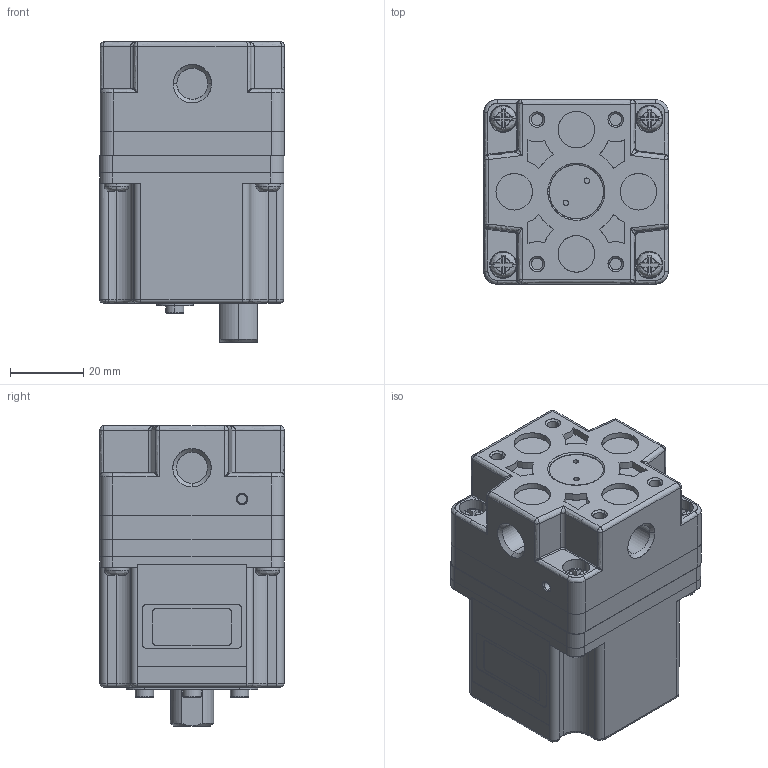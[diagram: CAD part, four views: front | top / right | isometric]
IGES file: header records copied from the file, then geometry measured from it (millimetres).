
Start section: SolidWorks IGES file using analytic representation for surfaces
Global section: file name: C:\Salvar\Planos Compartidos\Regulador de Pres. Prop\NITV1050-211BS.IGS; native system: SolidWorks 2021; preprocessor: SolidWorks 2021; author: osval; date: 210212.102738; units: millimetre
Bounding box: 50.6 x 50.4 x 82.25 mm (x, y, z)
Surface area: 38322.9 mm2 (no closed solid volume)
Topology: 0 solids, 0 shells, 529 faces, 5402 edges, 5378 vertices
Faces by surface type: bspline 325, revolution 204
